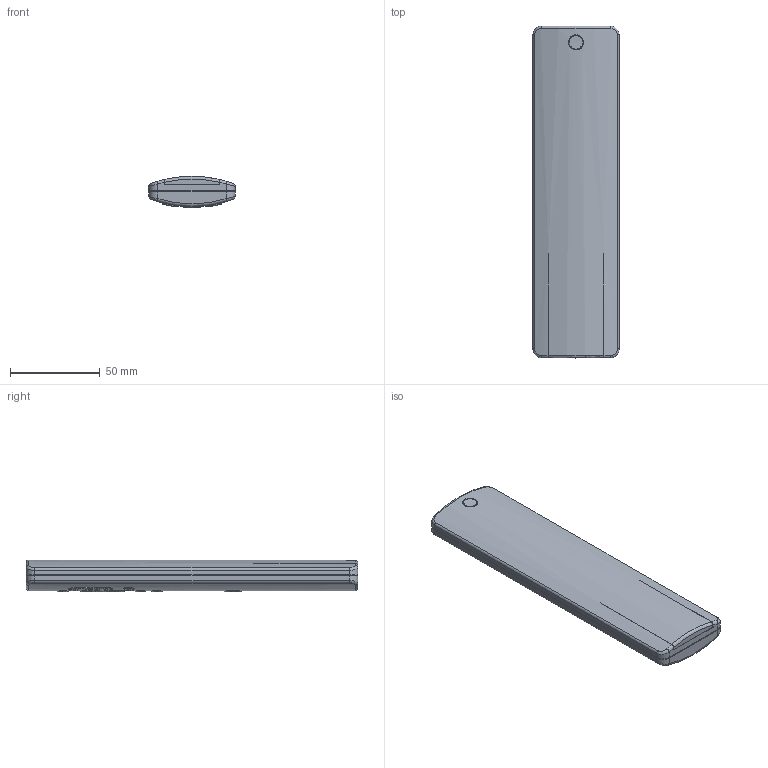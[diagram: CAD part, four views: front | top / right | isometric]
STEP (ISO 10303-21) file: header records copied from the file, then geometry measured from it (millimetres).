
FILE_DESCRIPTION((''),'2;1');
FILE_NAME('HC34BL1000','2017-03-10T',('jebi'),(''),'CREO PARAMETRIC BY PTC INC, 2016050','CREO PARAMETRIC BY PTC INC, 2016050','');
FILE_SCHEMA(('CONFIG_CONTROL_DESIGN'));
Length unit declared in the file: millimetre
Products named in the file (1): HC34BL1000
Bounding box: 48 x 185 x 17.71 mm (x, y, z)
Volume: 124096 mm3; surface area: 24354.5 mm2
Topology: 1 solids, 3 shells, 508 faces, 1304 edges, 853 vertices
Faces by surface type: bspline 219, plane 161, cylinder 90, extrusion 24, cone 8, torus 6
Entity records: 30414 total; most frequent: CARTESIAN_POINT 17960, ORIENTED_EDGE 2608, DIRECTION 1754, EDGE_CURVE 1304, VERTEX_POINT 853, AXIS2_PLACEMENT_3D 589, VECTOR 576, EDGE_LOOP 559
